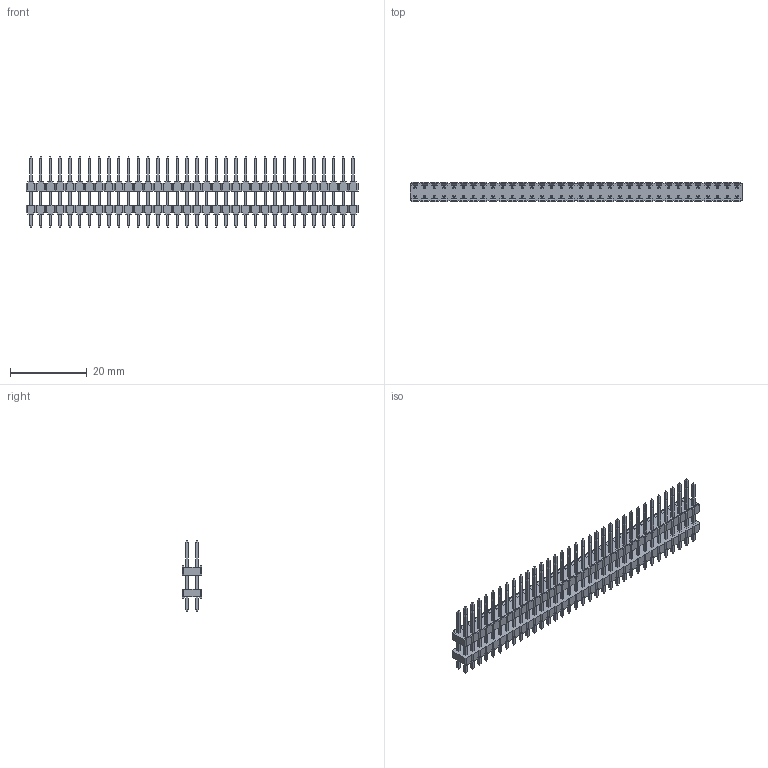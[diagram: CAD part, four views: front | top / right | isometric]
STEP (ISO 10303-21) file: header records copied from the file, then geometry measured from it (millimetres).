
FILE_DESCRIPTION(/* description */ (''),/* implementation_level */ '2;1');
FILE_NAME(/* name */ '961468-8040304-XX',/* time_stamp */ '2007-06-14T20:53:11+02:00',/* author */ (''),/* organization */ (''),/* preprocessor_version */ 'ST-DEVELOPER v9',/* originating_system */ 'UGS - NX 3.0',/* authorisation */ '');
FILE_SCHEMA (('AUTOMOTIVE_DESIGN { 1 0 10303 214 1 1 1 1 }'));
Products named in the file (1): 961468-8040304-XX
Bounding box: 86.36 x 5 x 18.5 mm (x, y, z)
Volume: 2136.5 mm3; surface area: 5062.5 mm2
Topology: 1 solids, 1 shells, 2596 faces, 6824 edges, 4368 vertices
Faces by surface type: plane 2596
Entity records: 77848 total; most frequent: CARTESIAN_POINT 13789, ORIENTED_EDGE 13648, DIRECTION 12018, EDGE_CURVE 6824, LINE 6824, VECTOR 6824, VERTEX_POINT 4368, EDGE_LOOP 2868
